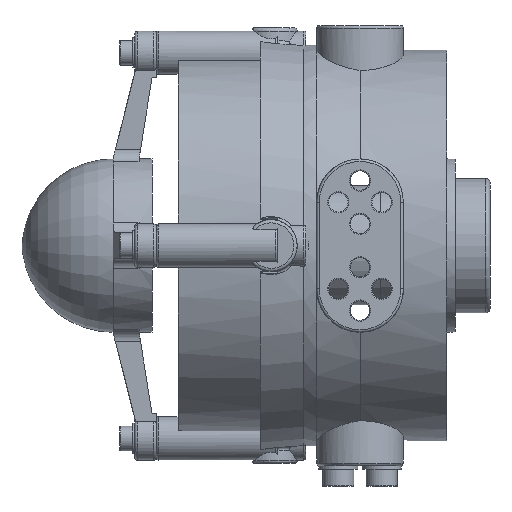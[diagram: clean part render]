
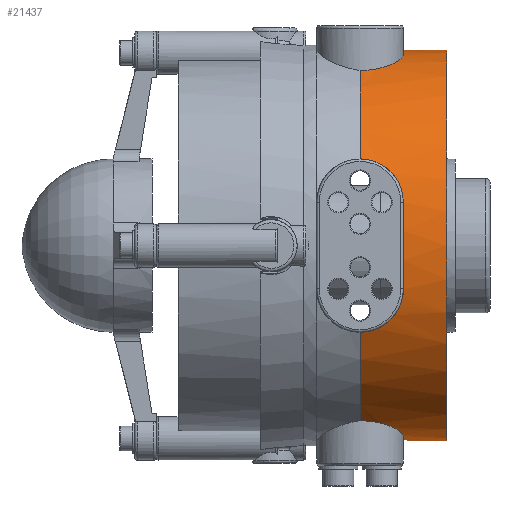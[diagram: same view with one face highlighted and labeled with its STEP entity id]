
A CAD part, left-side view. The second image highlights one B-rep face of the part: STEP entity #21437.
In plain terms, the highlighted cylindrical face has radius 45.096 mm (diameter 90.191 mm), a full revolution.
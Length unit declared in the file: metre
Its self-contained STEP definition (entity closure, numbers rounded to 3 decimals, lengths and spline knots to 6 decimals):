
#984=B_SPLINE_CURVE_WITH_KNOTS('',3,(#46734,#46735,#46736,#46737,#46738,
#46739,#46740),.UNSPECIFIED.,.F.,.F.,(4,1,1,1,4),(0.,0.004018,
0.008035,0.012053,0.016071),
 .UNSPECIFIED.);
#985=B_SPLINE_CURVE_WITH_KNOTS('',3,(#46744,#46745,#46746,#46747,#46748,
#46749,#46750),.UNSPECIFIED.,.F.,.F.,(4,1,1,1,4),(0.,0.004017,
0.008035,0.012052,0.01607),
 .UNSPECIFIED.);
#986=B_SPLINE_CURVE_WITH_KNOTS('',3,(#46751,#46752,#46753,#46754,#46755,
#46756,#46757),.UNSPECIFIED.,.F.,.F.,(4,1,1,1,4),(0.,0.004018,
0.008035,0.012053,0.016071),
 .UNSPECIFIED.);
#987=B_SPLINE_CURVE_WITH_KNOTS('',3,(#46761,#46762,#46763,#46764,#46765,
#46766,#46767),.UNSPECIFIED.,.F.,.F.,(4,1,1,1,4),(0.,0.004017,
0.008035,0.012052,0.01607),
 .UNSPECIFIED.);
#988=B_SPLINE_CURVE_WITH_KNOTS('',3,(#46768,#46769,#46770,#46771,#46772,
#46773,#46774),.UNSPECIFIED.,.F.,.F.,(4,1,1,1,4),(0.,0.004018,
0.008035,0.012053,0.016071),
 .UNSPECIFIED.);
#989=B_SPLINE_CURVE_WITH_KNOTS('',3,(#46778,#46779,#46780,#46781,#46782,
#46783,#46784),.UNSPECIFIED.,.F.,.F.,(4,1,1,1,4),(0.,0.004017,
0.008035,0.012052,0.01607),
 .UNSPECIFIED.);
#990=B_SPLINE_CURVE_WITH_KNOTS('',3,(#46785,#46786,#46787,#46788,#46789,
#46790,#46791),.UNSPECIFIED.,.F.,.F.,(4,1,1,1,4),(0.,0.004018,
0.008035,0.012053,0.016071),
 .UNSPECIFIED.);
#991=B_SPLINE_CURVE_WITH_KNOTS('',3,(#46795,#46796,#46797,#46798,#46799,
#46800,#46801),.UNSPECIFIED.,.F.,.F.,(4,1,1,1,4),(0.,
0.004017,0.008035,0.012052,0.01607),
 .UNSPECIFIED.);
#7277=ORIENTED_EDGE('',*,*,#12325,.F.);
#7278=ORIENTED_EDGE('',*,*,#12326,.F.);
#7279=ORIENTED_EDGE('',*,*,#12327,.F.);
#7280=ORIENTED_EDGE('',*,*,#12308,.F.);
#7281=ORIENTED_EDGE('',*,*,#12328,.F.);
#7282=ORIENTED_EDGE('',*,*,#12329,.F.);
#7283=ORIENTED_EDGE('',*,*,#12330,.F.);
#7284=ORIENTED_EDGE('',*,*,#12312,.F.);
#7285=ORIENTED_EDGE('',*,*,#12331,.F.);
#7286=ORIENTED_EDGE('',*,*,#12332,.F.);
#7287=ORIENTED_EDGE('',*,*,#12333,.F.);
#7288=ORIENTED_EDGE('',*,*,#12324,.F.);
#7289=ORIENTED_EDGE('',*,*,#12334,.F.);
#7290=ORIENTED_EDGE('',*,*,#12335,.F.);
#7291=ORIENTED_EDGE('',*,*,#12336,.F.);
#7292=ORIENTED_EDGE('',*,*,#12302,.F.);
#7293=ORIENTED_EDGE('',*,*,#12337,.T.);
#12302=EDGE_CURVE('',#14993,#14995,#16236,.T.);
#12308=EDGE_CURVE('',#15000,#14998,#16239,.T.);
#12312=EDGE_CURVE('',#15004,#15002,#16241,.T.);
#12324=EDGE_CURVE('',#15016,#15014,#16251,.T.);
#12325=EDGE_CURVE('',#15017,#14993,#984,.T.);
#12326=EDGE_CURVE('',#15018,#15017,#16252,.F.);
#12327=EDGE_CURVE('',#14998,#15018,#985,.T.);
#12328=EDGE_CURVE('',#15019,#15000,#986,.T.);
#12329=EDGE_CURVE('',#15020,#15019,#16253,.F.);
#12330=EDGE_CURVE('',#15002,#15020,#987,.T.);
#12331=EDGE_CURVE('',#15021,#15004,#988,.T.);
#12332=EDGE_CURVE('',#15022,#15021,#16254,.F.);
#12333=EDGE_CURVE('',#15014,#15022,#989,.T.);
#12334=EDGE_CURVE('',#15023,#15016,#990,.T.);
#12335=EDGE_CURVE('',#15024,#15023,#16255,.F.);
#12336=EDGE_CURVE('',#14995,#15024,#991,.T.);
#12337=EDGE_CURVE('',#15025,#15025,#16256,.T.);
#14993=VERTEX_POINT('',#46640);
#14995=VERTEX_POINT('',#46643);
#14998=VERTEX_POINT('',#46662);
#15000=VERTEX_POINT('',#46671);
#15002=VERTEX_POINT('',#46682);
#15004=VERTEX_POINT('',#46691);
#15014=VERTEX_POINT('',#46722);
#15016=VERTEX_POINT('',#46731);
#15017=VERTEX_POINT('',#46741);
#15018=VERTEX_POINT('',#46743);
#15019=VERTEX_POINT('',#46758);
#15020=VERTEX_POINT('',#46760);
#15021=VERTEX_POINT('',#46775);
#15022=VERTEX_POINT('',#46777);
#15023=VERTEX_POINT('',#46792);
#15024=VERTEX_POINT('',#46794);
#15025=VERTEX_POINT('',#46803);
#16236=CIRCLE('',#23821,0.045096);
#16239=CIRCLE('',#23825,0.045096);
#16241=CIRCLE('',#23828,0.045096);
#16251=CIRCLE('',#23843,0.045096);
#16252=CIRCLE('',#23845,0.045096);
#16253=CIRCLE('',#23846,0.045096);
#16254=CIRCLE('',#23847,0.045096);
#16255=CIRCLE('',#23848,0.045096);
#16256=CIRCLE('',#23849,0.045096);
#17600=EDGE_LOOP('',(#7277,#7278,#7279,#7280,#7281,#7282,#7283,#7284,#7285,
#7286,#7287,#7288,#7289,#7290,#7291,#7292));
#17601=EDGE_LOOP('',(#7293));
#19428=FACE_BOUND('',#17600,.T.);
#19429=FACE_BOUND('',#17601,.T.);
#20574=CYLINDRICAL_SURFACE('',#23844,0.045096);
#21437=ADVANCED_FACE('',(#19428,#19429),#20574,.T.);
#23821=AXIS2_PLACEMENT_3D('',#46642,#27662,#27663);
#23825=AXIS2_PLACEMENT_3D('',#46672,#27670,#27671);
#23828=AXIS2_PLACEMENT_3D('',#46692,#27676,#27677);
#23843=AXIS2_PLACEMENT_3D('',#46732,#27706,#27707);
#23844=AXIS2_PLACEMENT_3D('',#46733,#27708,#27709);
#23845=AXIS2_PLACEMENT_3D('',#46742,#27710,#27711);
#23846=AXIS2_PLACEMENT_3D('',#46759,#27712,#27713);
#23847=AXIS2_PLACEMENT_3D('',#46776,#27714,#27715);
#23848=AXIS2_PLACEMENT_3D('',#46793,#27716,#27717);
#23849=AXIS2_PLACEMENT_3D('',#46802,#27718,#27719);
#27662=DIRECTION('',(0.,1.,0.));
#27663=DIRECTION('',(0.,0.,1.));
#27670=DIRECTION('',(0.,1.,0.));
#27671=DIRECTION('',(0.,0.,1.));
#27676=DIRECTION('',(0.,1.,0.));
#27677=DIRECTION('',(0.,0.,1.));
#27706=DIRECTION('',(0.,1.,0.));
#27707=DIRECTION('',(0.,0.,1.));
#27708=DIRECTION('',(0.,1.,0.));
#27709=DIRECTION('',(0.,0.,1.));
#27710=DIRECTION('',(0.,-1.,0.));
#27711=DIRECTION('',(0.,0.,-1.));
#27712=DIRECTION('',(0.,-1.,0.));
#27713=DIRECTION('',(0.,0.,-1.));
#27714=DIRECTION('',(0.,-1.,0.));
#27715=DIRECTION('',(0.,0.,-1.));
#27716=DIRECTION('',(0.,-1.,0.));
#27717=DIRECTION('',(0.,0.,-1.));
#27718=DIRECTION('',(0.,1.,0.));
#27719=DIRECTION('',(0.,0.,1.));
#46640=CARTESIAN_POINT('',(0.040418,0.,-0.02));
#46642=CARTESIAN_POINT('',(0.,0.,0.));
#46643=CARTESIAN_POINT('',(0.02,0.,-0.040418));
#46662=CARTESIAN_POINT('',(0.040418,0.,0.02));
#46671=CARTESIAN_POINT('',(0.02,0.,0.040418));
#46672=CARTESIAN_POINT('',(0.,0.,0.));
#46682=CARTESIAN_POINT('',(-0.02,0.,0.040418));
#46691=CARTESIAN_POINT('',(-0.040418,0.,0.02));
#46692=CARTESIAN_POINT('',(0.,0.,0.));
#46722=CARTESIAN_POINT('',(-0.040418,0.,-0.02));
#46731=CARTESIAN_POINT('',(-0.02,0.,-0.040418));
#46732=CARTESIAN_POINT('',(0.,0.,0.));
#46733=CARTESIAN_POINT('',(0.,-0.004474,0.));
#46734=CARTESIAN_POINT('',(0.043973,-0.01,-0.01));
#46735=CARTESIAN_POINT('',(0.043671,-0.01,-0.011325));
#46736=CARTESIAN_POINT('',(0.042956,-0.009477,-0.013902));
#46737=CARTESIAN_POINT('',(0.041731,-0.007317,-0.017182));
#46738=CARTESIAN_POINT('',(0.040703,-0.004038,-0.019437));
#46739=CARTESIAN_POINT('',(0.040418,-0.001361,-0.02));
#46740=CARTESIAN_POINT('',(0.040418,0.,-0.02));
#46741=CARTESIAN_POINT('',(0.043973,-0.01,-0.01));
#46742=CARTESIAN_POINT('',(0.,-0.01,0.));
#46743=CARTESIAN_POINT('',(0.043973,-0.01,0.01));
#46744=CARTESIAN_POINT('',(0.040418,0.,0.02));
#46745=CARTESIAN_POINT('',(0.040418,-0.00136,0.02));
#46746=CARTESIAN_POINT('',(0.040701,-0.004029,0.019441));
#46747=CARTESIAN_POINT('',(0.041732,-0.007319,0.01718));
#46748=CARTESIAN_POINT('',(0.042953,-0.009473,0.013912));
#46749=CARTESIAN_POINT('',(0.043672,-0.01,0.011324));
#46750=CARTESIAN_POINT('',(0.043973,-0.01,0.01));
#46751=CARTESIAN_POINT('',(0.01,-0.01,0.043973));
#46752=CARTESIAN_POINT('',(0.011325,-0.01,0.043671));
#46753=CARTESIAN_POINT('',(0.013902,-0.009477,0.042956));
#46754=CARTESIAN_POINT('',(0.017182,-0.007317,0.041731));
#46755=CARTESIAN_POINT('',(0.019437,-0.004038,0.040703));
#46756=CARTESIAN_POINT('',(0.02,-0.001361,0.040418));
#46757=CARTESIAN_POINT('',(0.02,0.,0.040418));
#46758=CARTESIAN_POINT('',(0.01,-0.01,0.043973));
#46759=CARTESIAN_POINT('',(0.,-0.01,0.));
#46760=CARTESIAN_POINT('',(-0.01,-0.01,0.043973));
#46761=CARTESIAN_POINT('',(-0.02,0.,0.040418));
#46762=CARTESIAN_POINT('',(-0.02,-0.00136,0.040418));
#46763=CARTESIAN_POINT('',(-0.019441,-0.004029,0.040701));
#46764=CARTESIAN_POINT('',(-0.01718,-0.007319,0.041732));
#46765=CARTESIAN_POINT('',(-0.013912,-0.009473,0.042953));
#46766=CARTESIAN_POINT('',(-0.011324,-0.01,0.043672));
#46767=CARTESIAN_POINT('',(-0.01,-0.01,0.043973));
#46768=CARTESIAN_POINT('',(-0.043973,-0.01,0.01));
#46769=CARTESIAN_POINT('',(-0.043671,-0.01,0.011325));
#46770=CARTESIAN_POINT('',(-0.042956,-0.009477,0.013902));
#46771=CARTESIAN_POINT('',(-0.041731,-0.007317,0.017182));
#46772=CARTESIAN_POINT('',(-0.040703,-0.004038,0.019437));
#46773=CARTESIAN_POINT('',(-0.040418,-0.001361,0.02));
#46774=CARTESIAN_POINT('',(-0.040418,0.,0.02));
#46775=CARTESIAN_POINT('',(-0.043973,-0.01,0.01));
#46776=CARTESIAN_POINT('',(0.,-0.01,0.));
#46777=CARTESIAN_POINT('',(-0.043973,-0.01,-0.01));
#46778=CARTESIAN_POINT('',(-0.040418,0.,-0.02));
#46779=CARTESIAN_POINT('',(-0.040418,-0.00136,-0.02));
#46780=CARTESIAN_POINT('',(-0.040701,-0.004029,-0.019441));
#46781=CARTESIAN_POINT('',(-0.041732,-0.007319,-0.01718));
#46782=CARTESIAN_POINT('',(-0.042953,-0.009473,-0.013912));
#46783=CARTESIAN_POINT('',(-0.043672,-0.01,-0.011324));
#46784=CARTESIAN_POINT('',(-0.043973,-0.01,-0.01));
#46785=CARTESIAN_POINT('',(-0.01,-0.01,-0.043973));
#46786=CARTESIAN_POINT('',(-0.011325,-0.01,-0.043671));
#46787=CARTESIAN_POINT('',(-0.013902,-0.009477,-0.042956));
#46788=CARTESIAN_POINT('',(-0.017182,-0.007317,-0.041731));
#46789=CARTESIAN_POINT('',(-0.019437,-0.004038,-0.040703));
#46790=CARTESIAN_POINT('',(-0.02,-0.001361,-0.040418));
#46791=CARTESIAN_POINT('',(-0.02,0.,-0.040418));
#46792=CARTESIAN_POINT('',(-0.01,-0.01,-0.043973));
#46793=CARTESIAN_POINT('',(0.,-0.01,0.));
#46794=CARTESIAN_POINT('',(0.01,-0.01,-0.043973));
#46795=CARTESIAN_POINT('',(0.02,0.,-0.040418));
#46796=CARTESIAN_POINT('',(0.02,-0.00136,-0.040418));
#46797=CARTESIAN_POINT('',(0.019441,-0.004029,-0.040701));
#46798=CARTESIAN_POINT('',(0.01718,-0.007319,-0.041732));
#46799=CARTESIAN_POINT('',(0.013912,-0.009473,-0.042953));
#46800=CARTESIAN_POINT('',(0.011324,-0.01,-0.043672));
#46801=CARTESIAN_POINT('',(0.01,-0.01,-0.043973));
#46802=CARTESIAN_POINT('',(0.,-0.02,0.));
#46803=CARTESIAN_POINT('',(0.,-0.02,0.045096));
